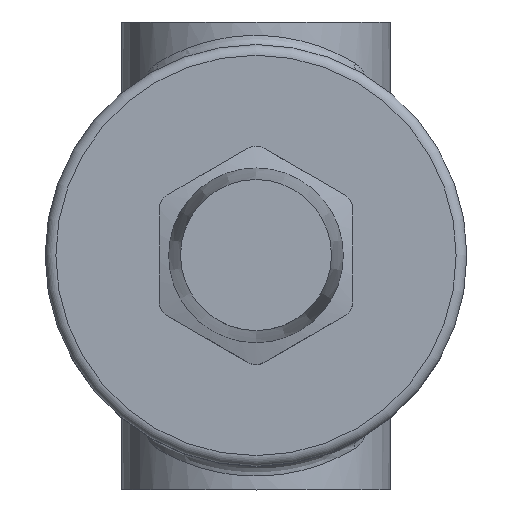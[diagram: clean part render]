
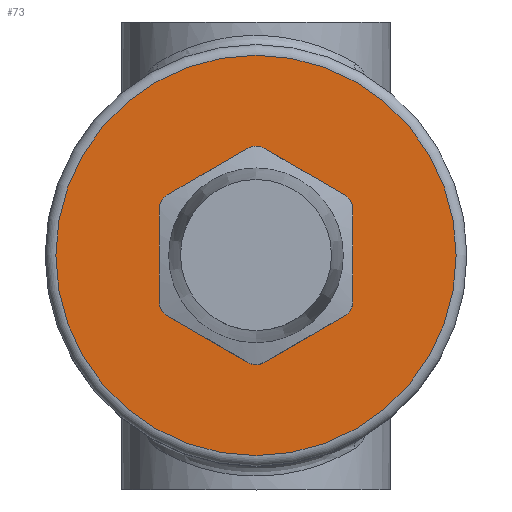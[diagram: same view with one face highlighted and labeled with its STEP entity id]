
A CAD part, top view. The second image highlights one B-rep face of the part: STEP entity #73.
In plain terms, the highlighted planar face has unit normal (0, 0, 1).
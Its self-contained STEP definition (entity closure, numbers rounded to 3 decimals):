
#73=ADVANCED_FACE('',(#793,#795),#797,.T.);
#793=FACE_BOUND('',#794,.T.);
#794=EDGE_LOOP('',(#6749));
#795=FACE_BOUND('',#796,.T.);
#796=EDGE_LOOP('',(#6750,#6751,#6752,#6753,#6754,#6755,#6756,#6757,#6758,#6759,#6760,
#6761));
#797=PLANE('',#798);
#798=AXIS2_PLACEMENT_3D('',#799,#800,#801);
#799=CARTESIAN_POINT('',(0.,0.,60.));
#800=DIRECTION('',(0.,0.,1.));
#801=DIRECTION('',(-1.,0.,0.));
#6749=ORIENTED_EDGE('',*,*,#10378,.T.);
#6750=ORIENTED_EDGE('',*,*,#10363,.F.);
#6751=ORIENTED_EDGE('',*,*,#10361,.F.);
#6752=ORIENTED_EDGE('',*,*,#10359,.F.);
#6753=ORIENTED_EDGE('',*,*,#10357,.F.);
#6754=ORIENTED_EDGE('',*,*,#10355,.F.);
#6755=ORIENTED_EDGE('',*,*,#10377,.F.);
#6756=ORIENTED_EDGE('',*,*,#10375,.F.);
#6757=ORIENTED_EDGE('',*,*,#10373,.F.);
#6758=ORIENTED_EDGE('',*,*,#10371,.F.);
#6759=ORIENTED_EDGE('',*,*,#10369,.F.);
#6760=ORIENTED_EDGE('',*,*,#10367,.F.);
#6761=ORIENTED_EDGE('',*,*,#10365,.F.);
#10355=EDGE_CURVE('',#11843,#11845,#11846,.F.);
#10357=EDGE_CURVE('',#11845,#11848,#11849,.T.);
#10359=EDGE_CURVE('',#11848,#11851,#11852,.F.);
#10361=EDGE_CURVE('',#11851,#11854,#11855,.T.);
#10363=EDGE_CURVE('',#11854,#11857,#11858,.F.);
#10365=EDGE_CURVE('',#11857,#11860,#11861,.T.);
#10367=EDGE_CURVE('',#11860,#11863,#11864,.F.);
#10369=EDGE_CURVE('',#11863,#11866,#11867,.T.);
#10371=EDGE_CURVE('',#11866,#11869,#11870,.F.);
#10373=EDGE_CURVE('',#11869,#11872,#11873,.T.);
#10375=EDGE_CURVE('',#11872,#11875,#11876,.F.);
#10377=EDGE_CURVE('',#11875,#11843,#11878,.T.);
#10378=EDGE_CURVE('',#11879,#11879,#11880,.T.);
#11843=VERTEX_POINT('',#14726);
#11845=VERTEX_POINT('',#14730);
#11846=CIRCLE('',#14731,3.);
#11848=VERTEX_POINT('',#14738);
#11849=LINE('',#14739,#14740);
#11851=VERTEX_POINT('',#14745);
#11852=CIRCLE('',#14746,3.);
#11854=VERTEX_POINT('',#14753);
#11855=LINE('',#14754,#14755);
#11857=VERTEX_POINT('',#14760);
#11858=CIRCLE('',#14761,3.);
#11860=VERTEX_POINT('',#14768);
#11861=LINE('',#14769,#14770);
#11863=VERTEX_POINT('',#14775);
#11864=CIRCLE('',#14776,3.);
#11866=VERTEX_POINT('',#14783);
#11867=LINE('',#14784,#14785);
#11869=VERTEX_POINT('',#14790);
#11870=CIRCLE('',#14791,3.);
#11872=VERTEX_POINT('',#14798);
#11873=LINE('',#14799,#14800);
#11875=VERTEX_POINT('',#14805);
#11876=CIRCLE('',#14806,3.);
#11878=LINE('',#14813,#14814);
#11879=VERTEX_POINT('',#14816);
#11880=CIRCLE('',#14817,37.25);
#14726=CARTESIAN_POINT('',(1.5,19.919,60.));
#14730=CARTESIAN_POINT('',(-1.5,19.919,60.));
#14731=AXIS2_PLACEMENT_3D('',#14732,#14733,#14734);
#14732=CARTESIAN_POINT('',(0.,17.321,60.));
#14733=DIRECTION('',(0.,0.,-1.));
#14734=DIRECTION('',(-0.5,0.866,0.));
#14738=CARTESIAN_POINT('',(-16.5,11.258,60.));
#14739=CARTESIAN_POINT('',(-1.5,19.919,60.));
#14740=VECTOR('',#14741,1.);
#14741=DIRECTION('',(-0.866,-0.5,0.));
#14745=CARTESIAN_POINT('',(-18.,8.66,60.));
#14746=AXIS2_PLACEMENT_3D('',#14747,#14748,#14749);
#14747=CARTESIAN_POINT('',(-15.,8.66,60.));
#14748=DIRECTION('',(0.,0.,-1.));
#14749=DIRECTION('',(-1.,0.,0.));
#14753=CARTESIAN_POINT('',(-18.,-8.66,60.));
#14754=CARTESIAN_POINT('',(-18.,8.66,60.));
#14755=VECTOR('',#14756,1.);
#14756=DIRECTION('',(0.,-1.,0.));
#14760=CARTESIAN_POINT('',(-16.5,-11.258,60.));
#14761=AXIS2_PLACEMENT_3D('',#14762,#14763,#14764);
#14762=CARTESIAN_POINT('',(-15.,-8.66,60.));
#14763=DIRECTION('',(0.,0.,-1.));
#14764=DIRECTION('',(-0.5,-0.866,0.));
#14768=CARTESIAN_POINT('',(-1.5,-19.919,60.));
#14769=CARTESIAN_POINT('',(-16.5,-11.258,60.));
#14770=VECTOR('',#14771,1.);
#14771=DIRECTION('',(0.866,-0.5,0.));
#14775=CARTESIAN_POINT('',(1.5,-19.919,60.));
#14776=AXIS2_PLACEMENT_3D('',#14777,#14778,#14779);
#14777=CARTESIAN_POINT('',(0.,-17.321,60.));
#14778=DIRECTION('',(0.,0.,-1.));
#14779=DIRECTION('',(0.5,-0.866,0.));
#14783=CARTESIAN_POINT('',(16.5,-11.258,60.));
#14784=CARTESIAN_POINT('',(1.5,-19.919,60.));
#14785=VECTOR('',#14786,1.);
#14786=DIRECTION('',(0.866,0.5,0.));
#14790=CARTESIAN_POINT('',(18.,-8.66,60.));
#14791=AXIS2_PLACEMENT_3D('',#14792,#14793,#14794);
#14792=CARTESIAN_POINT('',(15.,-8.66,60.));
#14793=DIRECTION('',(0.,0.,-1.));
#14794=DIRECTION('',(1.,0.,0.));
#14798=CARTESIAN_POINT('',(18.,8.66,60.));
#14799=CARTESIAN_POINT('',(18.,-8.66,60.));
#14800=VECTOR('',#14801,1.);
#14801=DIRECTION('',(0.,1.,0.));
#14805=CARTESIAN_POINT('',(16.5,11.258,60.));
#14806=AXIS2_PLACEMENT_3D('',#14807,#14808,#14809);
#14807=CARTESIAN_POINT('',(15.,8.66,60.));
#14808=DIRECTION('',(0.,0.,-1.));
#14809=DIRECTION('',(0.5,0.866,0.));
#14813=CARTESIAN_POINT('',(16.5,11.258,60.));
#14814=VECTOR('',#14815,1.);
#14815=DIRECTION('',(-0.866,0.5,0.));
#14816=CARTESIAN_POINT('',(-37.25,0.,60.));
#14817=AXIS2_PLACEMENT_3D('',#14818,#14819,#14820);
#14818=CARTESIAN_POINT('',(0.,0.,60.));
#14819=DIRECTION('',(0.,0.,1.));
#14820=DIRECTION('',(-1.,0.,0.));
